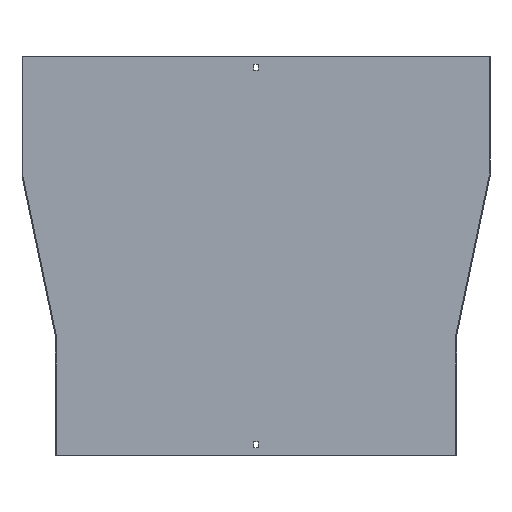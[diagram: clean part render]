
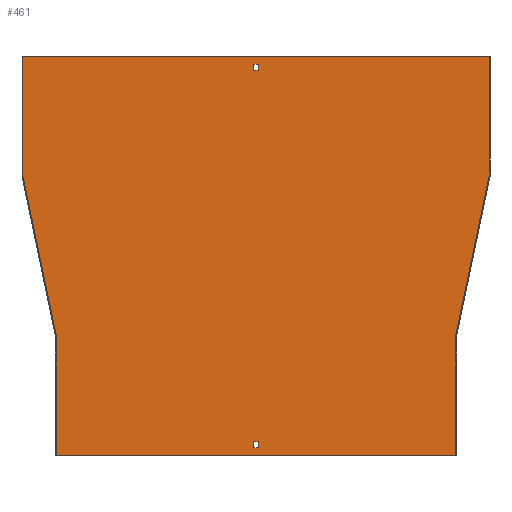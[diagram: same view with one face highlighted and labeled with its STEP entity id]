
A CAD part, front view. The second image highlights one B-rep face of the part: STEP entity #461.
In plain terms, the highlighted planar face has unit normal (0, -1, 0).
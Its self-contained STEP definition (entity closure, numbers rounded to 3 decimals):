
#6 = LINE ( 'NONE', #75, #303 ) ;
#12 = LINE ( 'NONE', #616, #356 ) ;
#17 = LINE ( 'NONE', #152, #810 ) ;
#19 = LINE ( 'NONE', #269, #57 ) ;
#32 = VERTEX_POINT ( 'NONE', #433 ) ;
#42 = VECTOR ( 'NONE', #625, 1000. ) ;
#52 = CARTESIAN_POINT ( 'NONE',  ( -3.25, -1.5, -588. ) ) ;
#57 = VECTOR ( 'NONE', #154, 1000. ) ;
#67 = VERTEX_POINT ( 'NONE', #52 ) ;
#75 = CARTESIAN_POINT ( 'NONE',  ( 0., -1.5, -579. ) ) ;
#81 = ORIENTED_EDGE ( 'NONE', *, *, #99, .T. ) ;
#86 = ORIENTED_EDGE ( 'NONE', *, *, #531, .T. ) ;
#95 = CARTESIAN_POINT ( 'NONE',  ( -350., -1.5, 0. ) ) ;
#99 = EDGE_CURVE ( 'NONE', #67, #590, #383, .T. ) ;
#104 = VECTOR ( 'NONE', #657, 1000. ) ;
#113 = ORIENTED_EDGE ( 'NONE', *, *, #644, .T. ) ;
#114 = FACE_BOUND ( 'NONE', #679, .T. ) ;
#117 = LINE ( 'NONE', #330, #137 ) ;
#123 = EDGE_CURVE ( 'NONE', #214, #256, #709, .T. ) ;
#126 = DIRECTION ( 'NONE',  ( -1., 0., 0. ) ) ;
#127 = VERTEX_POINT ( 'NONE', #700 ) ;
#131 = CARTESIAN_POINT ( 'NONE',  ( 3.25, -1.5, -21. ) ) ;
#134 = CARTESIAN_POINT ( 'NONE',  ( -300., -1.5, -600. ) ) ;
#137 = VECTOR ( 'NONE', #844, 1000. ) ;
#138 = LINE ( 'NONE', #519, #104 ) ;
#148 = EDGE_CURVE ( 'NONE', #726, #214, #203, .T. ) ;
#152 = CARTESIAN_POINT ( 'NONE',  ( -300., -1.5, -420. ) ) ;
#154 = DIRECTION ( 'NONE',  ( 0., 0., -1. ) ) ;
#157 = VERTEX_POINT ( 'NONE', #336 ) ;
#163 = CARTESIAN_POINT ( 'NONE',  ( -301.5, -1.5, -600. ) ) ;
#173 = FACE_OUTER_BOUND ( 'NONE', #227, .T. ) ;
#175 = EDGE_CURVE ( 'NONE', #683, #67, #659, .T. ) ;
#177 = CARTESIAN_POINT ( 'NONE',  ( 3.25, -1.5, 0. ) ) ;
#183 = DIRECTION ( 'NONE',  ( 0., 0., -1. ) ) ;
#195 = VERTEX_POINT ( 'NONE', #134 ) ;
#196 = EDGE_CURVE ( 'NONE', #157, #726, #534, .T. ) ;
#203 = LINE ( 'NONE', #791, #768 ) ;
#214 = VERTEX_POINT ( 'NONE', #325 ) ;
#221 = CARTESIAN_POINT ( 'NONE',  ( -350., -1.5, 0. ) ) ;
#227 = EDGE_LOOP ( 'NONE', ( #745, #513, #535, #249, #384, #409, #614, #310 ) ) ;
#249 = ORIENTED_EDGE ( 'NONE', *, *, #349, .F. ) ;
#250 = EDGE_CURVE ( 'NONE', #561, #600, #264, .T. ) ;
#256 = VERTEX_POINT ( 'NONE', #131 ) ;
#264 = LINE ( 'NONE', #327, #752 ) ;
#266 = CARTESIAN_POINT ( 'NONE',  ( -300., -1.5, -419.845 ) ) ;
#269 = CARTESIAN_POINT ( 'NONE',  ( 350., -1.5, -180. ) ) ;
#283 = DIRECTION ( 'NONE',  ( 0., 0., 1. ) ) ;
#287 = CARTESIAN_POINT ( 'NONE',  ( 351.5, -1.5, 0. ) ) ;
#300 = FACE_BOUND ( 'NONE', #722, .T. ) ;
#303 = VECTOR ( 'NONE', #421, 1000. ) ;
#306 = EDGE_CURVE ( 'NONE', #600, #826, #348, .T. ) ;
#310 = ORIENTED_EDGE ( 'NONE', *, *, #695, .F. ) ;
#314 = DIRECTION ( 'NONE',  ( 0., 0., 1. ) ) ;
#318 = VERTEX_POINT ( 'NONE', #488 ) ;
#319 = VECTOR ( 'NONE', #314, 1000. ) ;
#325 = CARTESIAN_POINT ( 'NONE',  ( -3.25, -1.5, -21. ) ) ;
#327 = CARTESIAN_POINT ( 'NONE',  ( -350.032, -1.5, -179.694 ) ) ;
#330 = CARTESIAN_POINT ( 'NONE',  ( 3.25, -1.5, 0. ) ) ;
#331 = DIRECTION ( 'NONE',  ( -1., 0., 0. ) ) ;
#336 = CARTESIAN_POINT ( 'NONE',  ( 3.25, -1.5, -12. ) ) ;
#339 = DIRECTION ( 'NONE',  ( 0., 0., -1. ) ) ;
#340 = ORIENTED_EDGE ( 'NONE', *, *, #148, .F. ) ;
#348 = LINE ( 'NONE', #221, #388 ) ;
#349 = EDGE_CURVE ( 'NONE', #195, #561, #17, .T. ) ;
#356 = VECTOR ( 'NONE', #796, 1000. ) ;
#359 = VECTOR ( 'NONE', #331, 1000. ) ;
#362 = ORIENTED_EDGE ( 'NONE', *, *, #820, .F. ) ;
#383 = LINE ( 'NONE', #581, #701 ) ;
#384 = ORIENTED_EDGE ( 'NONE', *, *, #485, .F. ) ;
#388 = VECTOR ( 'NONE', #617, 1000. ) ;
#396 = EDGE_CURVE ( 'NONE', #826, #127, #728, .T. ) ;
#397 = CARTESIAN_POINT ( 'NONE',  ( -3.25, -1.5, -579. ) ) ;
#409 = ORIENTED_EDGE ( 'NONE', *, *, #624, .F. ) ;
#417 = AXIS2_PLACEMENT_3D ( 'NONE', #516, #772, #183 ) ;
#421 = DIRECTION ( 'NONE',  ( 1., 0., 0. ) ) ;
#422 = DIRECTION ( 'NONE',  ( 1., 0., 0. ) ) ;
#433 = CARTESIAN_POINT ( 'NONE',  ( 3.25, -1.5, -579. ) ) ;
#450 = VERTEX_POINT ( 'NONE', #565 ) ;
#451 = LINE ( 'NONE', #163, #42 ) ;
#456 = ORIENTED_EDGE ( 'NONE', *, *, #196, .F. ) ;
#460 = CARTESIAN_POINT ( 'NONE',  ( 0., -1.5, -588. ) ) ;
#461 = ADVANCED_FACE ( 'NONE', ( #300, #173, #114 ), #568, .T. ) ;
#464 = DIRECTION ( 'NONE',  ( -0.204, 0., 0.979 ) ) ;
#471 = ORIENTED_EDGE ( 'NONE', *, *, #175, .T. ) ;
#485 = EDGE_CURVE ( 'NONE', #450, #195, #451, .T. ) ;
#488 = CARTESIAN_POINT ( 'NONE',  ( 350., -1.5, -179.845 ) ) ;
#513 = ORIENTED_EDGE ( 'NONE', *, *, #306, .F. ) ;
#516 = CARTESIAN_POINT ( 'NONE',  ( 0., -1.5, 0. ) ) ;
#519 = CARTESIAN_POINT ( 'NONE',  ( 300., -1.5, -600. ) ) ;
#531 = EDGE_CURVE ( 'NONE', #32, #683, #117, .T. ) ;
#534 = LINE ( 'NONE', #721, #359 ) ;
#535 = ORIENTED_EDGE ( 'NONE', *, *, #250, .F. ) ;
#543 = CARTESIAN_POINT ( 'NONE',  ( 3.25, -1.5, -588. ) ) ;
#559 = CARTESIAN_POINT ( 'NONE',  ( 300., -1.5, -419.845 ) ) ;
#561 = VERTEX_POINT ( 'NONE', #266 ) ;
#565 = CARTESIAN_POINT ( 'NONE',  ( 300., -1.5, -600. ) ) ;
#568 = PLANE ( 'NONE',  #417 ) ;
#569 = DIRECTION ( 'NONE',  ( 0., 0., 1. ) ) ;
#581 = CARTESIAN_POINT ( 'NONE',  ( -3.25, -1.5, 0. ) ) ;
#590 = VERTEX_POINT ( 'NONE', #397 ) ;
#600 = VERTEX_POINT ( 'NONE', #723 ) ;
#606 = VECTOR ( 'NONE', #422, 1000. ) ;
#607 = ORIENTED_EDGE ( 'NONE', *, *, #123, .F. ) ;
#614 = ORIENTED_EDGE ( 'NONE', *, *, #669, .F. ) ;
#616 = CARTESIAN_POINT ( 'NONE',  ( 300.032, -1.5, -419.694 ) ) ;
#617 = DIRECTION ( 'NONE',  ( 0., 0., 1. ) ) ;
#624 = EDGE_CURVE ( 'NONE', #655, #450, #138, .T. ) ;
#625 = DIRECTION ( 'NONE',  ( -1., 0., 0. ) ) ;
#643 = DIRECTION ( 'NONE',  ( 1., 0., 0. ) ) ;
#644 = EDGE_CURVE ( 'NONE', #590, #32, #6, .T. ) ;
#655 = VERTEX_POINT ( 'NONE', #559 ) ;
#657 = DIRECTION ( 'NONE',  ( 0., 0., -1. ) ) ;
#659 = LINE ( 'NONE', #460, #824 ) ;
#669 = EDGE_CURVE ( 'NONE', #318, #655, #12, .T. ) ;
#679 = EDGE_LOOP ( 'NONE', ( #471, #81, #113, #86 ) ) ;
#683 = VERTEX_POINT ( 'NONE', #543 ) ;
#695 = EDGE_CURVE ( 'NONE', #127, #318, #19, .T. ) ;
#700 = CARTESIAN_POINT ( 'NONE',  ( 350., -1.5, 0. ) ) ;
#701 = VECTOR ( 'NONE', #569, 1000. ) ;
#709 = LINE ( 'NONE', #762, #823 ) ;
#721 = CARTESIAN_POINT ( 'NONE',  ( 0., -1.5, -12. ) ) ;
#722 = EDGE_LOOP ( 'NONE', ( #340, #456, #362, #607 ) ) ;
#723 = CARTESIAN_POINT ( 'NONE',  ( -350., -1.5, -179.845 ) ) ;
#726 = VERTEX_POINT ( 'NONE', #741 ) ;
#728 = LINE ( 'NONE', #287, #606 ) ;
#741 = CARTESIAN_POINT ( 'NONE',  ( -3.25, -1.5, -12. ) ) ;
#745 = ORIENTED_EDGE ( 'NONE', *, *, #396, .F. ) ;
#748 = LINE ( 'NONE', #177, #319 ) ;
#752 = VECTOR ( 'NONE', #464, 1000. ) ;
#762 = CARTESIAN_POINT ( 'NONE',  ( 0., -1.5, -21. ) ) ;
#768 = VECTOR ( 'NONE', #339, 1000. ) ;
#772 = DIRECTION ( 'NONE',  ( 0., -1., 0. ) ) ;
#791 = CARTESIAN_POINT ( 'NONE',  ( -3.25, -1.5, 0. ) ) ;
#796 = DIRECTION ( 'NONE',  ( -0.204, 0., -0.979 ) ) ;
#810 = VECTOR ( 'NONE', #283, 1000. ) ;
#820 = EDGE_CURVE ( 'NONE', #256, #157, #748, .T. ) ;
#823 = VECTOR ( 'NONE', #643, 1000. ) ;
#824 = VECTOR ( 'NONE', #126, 1000. ) ;
#826 = VERTEX_POINT ( 'NONE', #95 ) ;
#844 = DIRECTION ( 'NONE',  ( 0., 0., -1. ) ) ;
